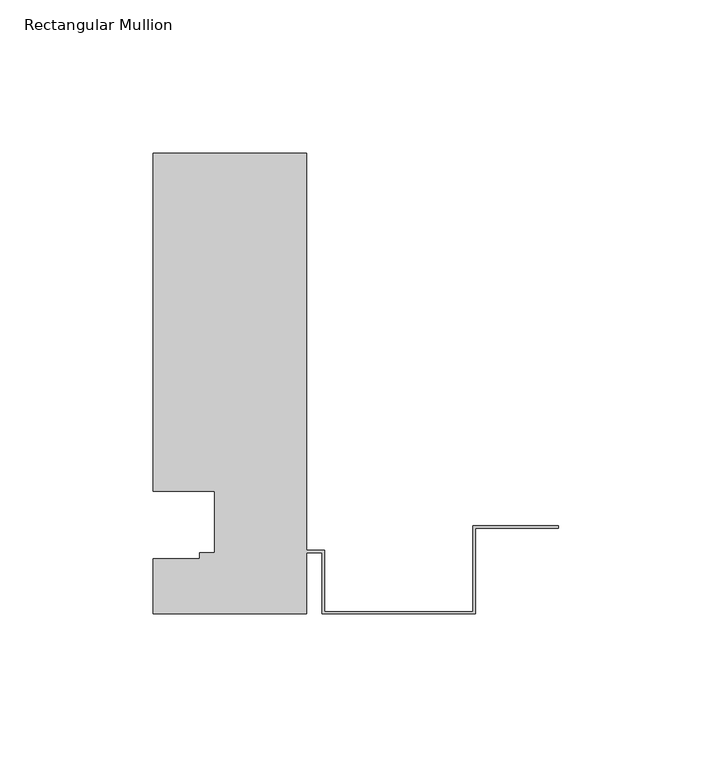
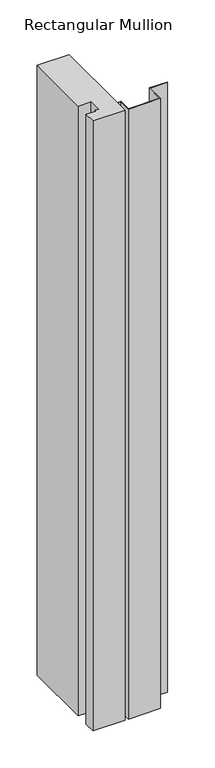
"""IFC4 building model written with IfcOpenShell, lengths in millimetres: member geometry, Rectangular Mullion : TR_CW_ALU_border_GROOVE."""

import ifcopenshell
import ifcopenshell.guid

model = None  # the IFC model being written
_history = None  # IfcOwnerHistory: only IFC2X3 demands one
_inside = {}  # id of a spatial element -> (the spatial element, [elements in it])
_under = {}  # id of a project, library or spatial element -> (it, [spatial elements below it])
_declared = {}  # id of a project -> (the project, [libraries it declares])
_typed = {}  # id of a type object -> (the type object, [elements of that type])
_made_of = {}  # id of a material, layer set ... -> (it, [elements and type objects made of it])


def new_model(schema):
    """Start an empty IFC model of exactly this schema.

    Asked for "IFC4X3", IfcOpenShell would pick the latest addendum, in which some entities
    have other attributes; the version numbers below select the first issue.
    IFC2X3 requires an IfcOwnerHistory on every rooted entity: one is made here for all.
    """
    global model, _history
    if schema == "IFC4X3":
        model = ifcopenshell.file(schema_version=(4, 3, 0, 0))
    else:
        model = ifcopenshell.file(schema=schema)
    _inside.clear()
    _under.clear()
    _declared.clear()
    _typed.clear()
    _made_of.clear()
    _history = None
    if model.schema == "IFC2X3":
        org = make("IfcOrganization", Name="unknown")
        user = make(
            "IfcPersonAndOrganization",
            ThePerson=make("IfcPerson", FamilyName="unknown"),
            TheOrganization=org,
        )
        app = make(
            "IfcApplication",
            ApplicationDeveloper=org,
            Version="unknown",
            ApplicationFullName="unknown",
            ApplicationIdentifier="unknown",
        )
        _history = make(
            "IfcOwnerHistory",
            OwningUser=user,
            OwningApplication=app,
            ChangeAction="ADDED",
            CreationDate=0,
        )
    return model


def make(cls, **values):
    """One entity of the class cls with the attributes given. An attribute that is None is left unset."""
    return model.create_entity(
        cls, **{name: value for name, value in values.items() if value is not None}
    )


def rooted(cls, **values):
    """An entity with a GlobalId (a new one), such as an element, a storey or a relation."""
    return make(cls, GlobalId=ifcopenshell.guid.new(), OwnerHistory=_history, **values)


def si_unit(unit_type, name, prefix=None):
    """IfcSIUnit, for example si_unit("LENGTHUNIT", "METRE", prefix="MILLI")."""
    return make("IfcSIUnit", UnitType=unit_type, Prefix=prefix, Name=name)


def assignment(units):
    """IfcUnitAssignment: the units of a project."""
    return None if units is None else make("IfcUnitAssignment", Units=units)


def point(xyz):
    """IfcCartesianPoint."""
    return None if xyz is None else make("IfcCartesianPoint", Coordinates=xyz)


def direction(xyz):
    """IfcDirection."""
    return None if xyz is None else make("IfcDirection", DirectionRatios=xyz)


def frame(location, z_axis=None, x_axis=None):
    """IfcAxis2Placement3D, a coordinate frame: its origin and axes. An axis left out is left unset."""
    return make(
        "IfcAxis2Placement3D",
        Location=point(location),
        Axis=direction(z_axis),
        RefDirection=direction(x_axis),
    )


def origin():
    """The frame at (0, 0, 0) with its axes left unset."""
    return frame((0.0, 0.0, 0.0))


def place(relative_to, where):
    """IfcLocalPlacement: puts the frame where relative to a parent placement (None: the world)."""
    return make(
        "IfcLocalPlacement", PlacementRelTo=relative_to, RelativePlacement=where
    )


def context(
    kind, dimensions, precision=None, world=None, true_north=None, identifier=None
):
    """IfcGeometricRepresentationContext, for example the 3D "Model" context."""
    return make(
        "IfcGeometricRepresentationContext",
        ContextIdentifier=identifier,
        ContextType=kind,
        CoordinateSpaceDimension=dimensions,
        Precision=precision,
        WorldCoordinateSystem=world,
        TrueNorth=true_north,
    )


def project(units=None, contexts=None):
    """IfcProject with its units and contexts."""
    return rooted(
        "IfcProject",
        Name="project",
        RepresentationContexts=contexts,
        UnitsInContext=assignment(units),
    )


def spatial(cls, under=None, at=None, **own):
    """A site, building, storey or space (cls), placed at a placement, below another one or the project."""
    s = rooted(cls, ObjectPlacement=at, **own)
    if under is not None:
        _under.setdefault(under.id(), (under, []))[1].append(s)
    return s


def polyline(points):
    """IfcPolyline through the points."""
    return make("IfcPolyline", Points=[point(p) for p in points])


def outline(outer, holes=None, kind="AREA"):
    """IfcArbitraryClosedProfileDef: a profile drawn as a closed curve; with holes, ...WithVoids."""
    if holes is None:
        return make("IfcArbitraryClosedProfileDef", ProfileType=kind, OuterCurve=outer)
    return make(
        "IfcArbitraryProfileDefWithVoids",
        ProfileType=kind,
        OuterCurve=outer,
        InnerCurves=holes,
    )


def extrude(swept, where, along, depth):
    """IfcExtrudedAreaSolid: the profile swept, set in the frame where, extruded along a direction by depth."""
    return make(
        "IfcExtrudedAreaSolid",
        SweptArea=swept,
        Position=where,
        ExtrudedDirection=direction(along),
        Depth=depth,
    )


def shape(context_of_items, identifier, shape_type, items):
    """IfcShapeRepresentation: the items that make up one representation, for example the "Body"."""
    return make(
        "IfcShapeRepresentation",
        ContextOfItems=context_of_items,
        RepresentationIdentifier=identifier,
        RepresentationType=shape_type,
        Items=items,
    )


def source(mapping_origin, context_of_items, identifier, shape_type, items):
    """IfcRepresentationMap: a shape defined once, which mapped items show again and again."""
    return make(
        "IfcRepresentationMap",
        MappingOrigin=mapping_origin,
        MappedRepresentation=shape(context_of_items, identifier, shape_type, items),
    )


def transform(
    local_origin,
    x_axis=None,
    y_axis=None,
    z_axis=None,
    scale=None,
    scale2=None,
    scale3=None,
    uniform=True,
):
    """IfcCartesianTransformationOperator3D, or its non-uniform kind. x_axis, y_axis, z_axis: its Axis1, 2, 3."""
    if uniform:
        return make(
            "IfcCartesianTransformationOperator3D",
            Axis1=direction(x_axis),
            Axis2=direction(y_axis),
            LocalOrigin=point(local_origin),
            Scale=scale,
            Axis3=direction(z_axis),
        )
    return make(
        "IfcCartesianTransformationOperator3DnonUniform",
        Axis1=direction(x_axis),
        Axis2=direction(y_axis),
        LocalOrigin=point(local_origin),
        Scale=scale,
        Axis3=direction(z_axis),
        Scale2=scale2,
        Scale3=scale3,
    )


def mapped(mapping_source, mapping_target):
    """IfcMappedItem: shows the shape of a source again, moved by a transform."""
    return make(
        "IfcMappedItem", MappingSource=mapping_source, MappingTarget=mapping_target
    )


def made_of(thing, what):
    """Note that an element or type object is made of a material, layer set ...; save() writes the relation."""
    if what is not None:
        _made_of.setdefault(what.id(), (what, []))[1].append(thing)
    return thing


def element(
    cls,
    number,
    at=None,
    inside=None,
    cuts=None,
    type_object=None,
    material=None,
    context=None,
    identifier="Body",
    shape_type=None,
    held_by="IfcProductDefinitionShape",
    body=None,
    shapes=None,
    **own,
):
    """One element of the class cls, such as IfcWall. Its Tag is "e" and its number.

    at: its placement. inside: the storey or other place that contains it. cuts: it is an
    opening in that element (IfcRelVoidsElement). A single representation is given by context,
    identifier, shape_type and body (its items); several are given by shapes. held_by: the class
    of the entity that holds the representations. save() writes the other relations.
    """
    e = rooted(cls, Tag="e%d" % number, ObjectPlacement=at, **own)
    if body is not None:
        shapes = [shape(context, identifier, shape_type, body)]
    if shapes is not None:
        e.Representation = make(held_by, Representations=shapes)
    if inside is not None:
        _inside.setdefault(inside.id(), (inside, []))[1].append(e)
    if cuts is not None:
        rooted(
            "IfcRelVoidsElement", RelatingBuildingElement=cuts, RelatedOpeningElement=e
        )
    if type_object is not None:
        _typed.setdefault(type_object.id(), (type_object, []))[1].append(e)
    return made_of(e, material)


def aggregate(whole, parts):
    """IfcRelAggregates: a whole, such as a stair, and the parts it consists of."""
    return rooted("IfcRelAggregates", RelatingObject=whole, RelatedObjects=parts)


def save(model, path):
    """Write the relations noted so far, then the file.

    IfcRelAggregates (storeys below a building ...), IfcRelContainedInSpatialStructure (elements
    in a storey), IfcRelDefinesByType, IfcRelAssociatesMaterial and IfcRelDeclares: one each for
    every whole, place, type object, material and project.
    """
    for whole, parts in _under.values():
        aggregate(whole, parts)
    for where, things in _inside.values():
        rooted(
            "IfcRelContainedInSpatialStructure",
            RelatedElements=things,
            RelatingStructure=where,
        )
    for kind, things in _typed.values():
        rooted("IfcRelDefinesByType", RelatedObjects=things, RelatingType=kind)
    for what, things in _made_of.values():
        rooted("IfcRelAssociatesMaterial", RelatedObjects=things, RelatingMaterial=what)
    for by, libraries in _declared.values():
        rooted("IfcRelDeclares", RelatingContext=by, RelatedDefinitions=libraries)
    model.write(path)


def rectangular_mullion_8cebfc19(model_context):
    return source(origin(), model_context, "Body", "SweptSolid", [
        extrude(outline(polyline([(-132.0, 0.0), (-132.0, 18.0204111), (-117.0, 18.0204111), (-117.0, 20.0), (-112.0, 20.0), (-112.0, 40.0), (-132.0, 40.0), (-132.0, 150.0), (-82.0, 150.0), (-82.0, 20.8), (-76.2, 20.8), (-76.2, 0.8), (-27.8, 0.8), (-27.8, 28.8), (0.0, 28.8), (0.0, 28.0), (-27.0, 28.0), (-27.0, 0.0), (-77.0, 0.0), (-77.0, 20.0), (-82.0, 20.0), (-82.0, 0.0), (-132.0, 0.0)])), frame((0.0, 0.0, -1000.0), z_axis=(0.0, 0.0, 1.0), x_axis=(1.0, 0.0, 0.0)), (0.0, 0.0, 1.0), 1000.0),
    ])


if __name__ == "__main__":
    model = new_model("IFC4")
    model_context = context("Model", 3, world=origin())
    ifc_project = project(units=[si_unit("LENGTHUNIT", "METRE", prefix="MILLI")], contexts=[model_context])
    site = spatial("IfcSite", under=ifc_project)
    building = spatial("IfcBuilding", under=site)
    placement = place(None, origin())
    rectangular_mullion_shape = rectangular_mullion_8cebfc19(model_context)
    element("IfcMember", 1, ObjectType="Rectangular Mullion : TR_CW_ALU_border_GROOVE", at=placement, inside=building, context=model_context, shape_type="MappedRepresentation", body=[
        mapped(rectangular_mullion_shape, transform((0.0, 0.0, 0.0), x_axis=(1.0, 0.0, 0.0), y_axis=(0.0, 1.0, 0.0), z_axis=(0.0, 0.0, 1.0))),
    ])
    save(model, "model.ifc")
